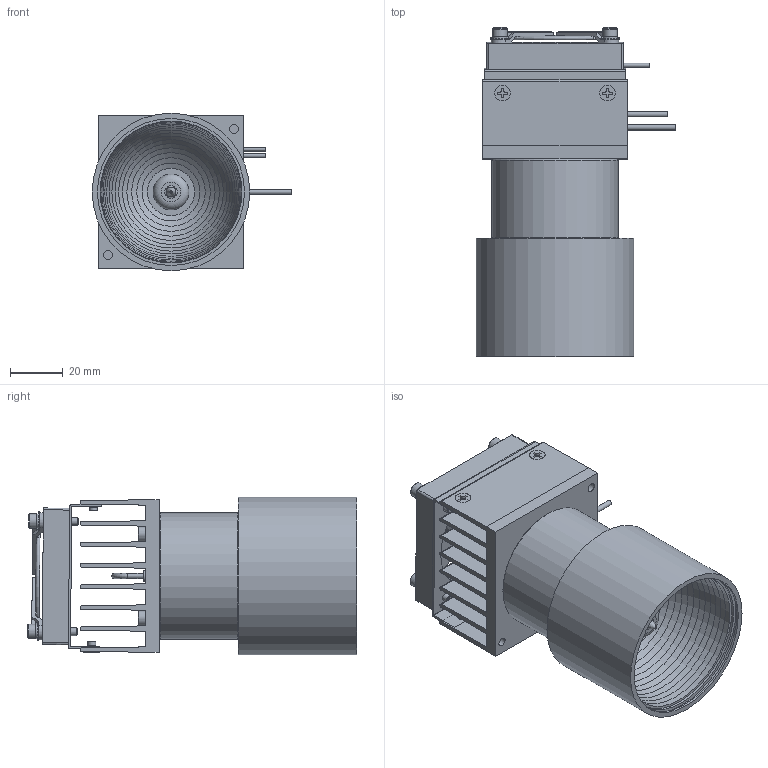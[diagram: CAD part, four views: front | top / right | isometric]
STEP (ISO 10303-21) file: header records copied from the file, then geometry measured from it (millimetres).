
FILE_DESCRIPTION(/* description */ (''),/* implementation_level */ '2;1');
FILE_NAME(/* name */ 'D:/ドキュメント/ACLT/その他/FTC_HP/HSH/3D/HSH-60_FAN_01.step',/* time_stamp */ '2018-05-31T12:46:47+09:00',/* author */ ('j.masuoka@mbe.nifty.com'),/* organization */ (''),/* preprocessor_version */ 'ST-DEVELOPER v17',/* originating_system */ 'Autodesk Translation Framework v7.1.0.215',/* authorisation */ '');
FILE_SCHEMA (('AUTOMOTIVE_DESIGN { 1 0 10303 214 3 1 1 }'));
Length unit declared in the file: millimetre
Products named in the file (35): HSH-60_FAN_01; 60-03c v2; 60-05 v5; 60-03b v1; 60-6 v5; SFBJ3-4 v2 (3); SFBJ3-4 v2 (2); SFBJ3-4 v2 (1); SFBJ3-4 v2; MDS510-24 b v3; _MDS510-24-part; FG5D v3; 60-7 v1; 60-04 v5; 60-01 v2; SCB3-6 v2 (3); SCB3-6 v2 (2); SCB3-6 v2 (1); SCB3-6 v2; SCBS3-16 v1 (3); _BOLTSCBS3-16 (3); _SPRWAS3 (3); _PLWAS3 (3); SCBS3-16 v1 (2); _BOLTSCBS3-16 (2); _SPRWAS3 (2); _PLWAS3 (2); SCBS3-16 v1 (1); _BOLTSCBS3-16 (1); _SPRWAS3 (1); _PLWAS3 (1); SCBS3-16 v1; _BOLTSCBS3-16; _SPRWAS3; _PLWAS3
Assembly tree (34 placements, depth 3):
  HSH-60_FAN_01
    60-03c v2
    60-05 v5
    60-03b v1
    60-6 v5
    SFBJ3-4 v2 (3)
    SFBJ3-4 v2 (2)
    SFBJ3-4 v2 (1)
    SFBJ3-4 v2
    MDS510-24 b v3
      _MDS510-24-part
    FG5D v3
    60-7 v1
    60-04 v5
    60-01 v2
    SCB3-6 v2 (3)
    SCB3-6 v2 (2)
    SCB3-6 v2 (1)
    SCB3-6 v2
    SCBS3-16 v1 (3)
      _BOLTSCBS3-16 (3)
      _SPRWAS3 (3)
      _PLWAS3 (3)
    SCBS3-16 v1 (2)
      _BOLTSCBS3-16 (2)
      _SPRWAS3 (2)
      _PLWAS3 (2)
    SCBS3-16 v1 (1)
      _BOLTSCBS3-16 (1)
      _SPRWAS3 (1)
      _PLWAS3 (1)
    SCBS3-16 v1
      _BOLTSCBS3-16
      _SPRWAS3
      _PLWAS3
Bounding box: 76 x 125.31 x 60 mm (x, y, z)
Volume: 167723.7 mm3; surface area: 82581.8 mm2
Topology: 30 solids, 30 shells, 627 faces, 1762 edges, 1191 vertices
Faces by surface type: plane 396, cylinder 152, cone 62, torus 15, sphere 2
Full cylindrical faces by diameter (mm): 1.5 x2, 2 x4, 2.529 x8, 2.693 x8, 3 x16, 3.332 x4, 3.4 x8, 3.7 x4, 3.8 x1, 4 x4, 5 x2, 5.5 x8, 6 x4, 7 x4, 8 x2, 11.6 x1, 13.6 x1, 18 x1, 20 x1, 22.86 x1, 44 x1, 44.1 x1, 47 x2, 48 x1, 56 x2, 58.4 x1, 60 x1
Entity records: 22378 total; most frequent: DIRECTION 3860, CARTESIAN_POINT 3679, ORIENTED_EDGE 3504, EDGE_CURVE 1752, AXIS2_PLACEMENT_3D 1432, VERTEX_POINT 1191, LINE 996, VECTOR 996
